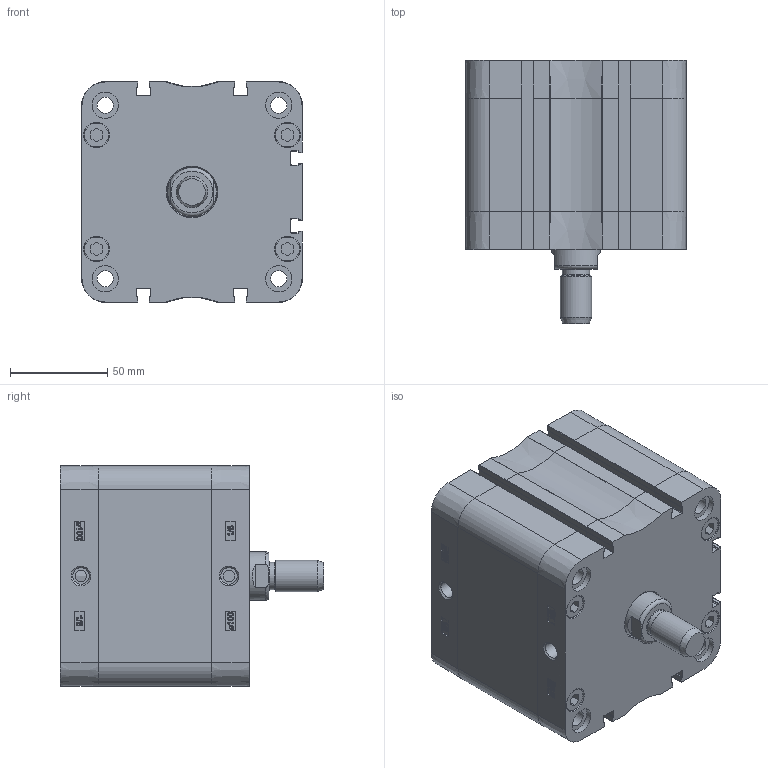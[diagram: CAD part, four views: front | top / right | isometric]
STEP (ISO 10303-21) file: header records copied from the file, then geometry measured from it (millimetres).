
FILE_DESCRIPTION((''),'2;1');
FILE_NAME('T:\Archivio Inventor\- CATALOGHI 2012\SERIE P - NUOVA\PDM\PDM100\PDM100.---.GS.M\PDM100.030.GS.M.stp','2013-02-05T11:42:21',('Administrator'),(''),'Autodesk Inventor 2012','Autodesk Inventor 2012','');
FILE_SCHEMA(('CONFIG_CONTROL_DESIGN'));
Length unit declared in the file: millimetre
Products named in the file (1): PDM100.030.GS.M
Bounding box: 113.3 x 135 x 113.3 mm (x, y, z)
Volume: 597260.7 mm3; surface area: 166895.9 mm2
Topology: 1 solids, 5 shells, 908 faces, 2136 edges, 1312 vertices
Faces by surface type: plane 371, bspline 226, cylinder 148, cone 81, torus 58, sphere 24
Full cylindrical faces by diameter (mm): 6 x2, 8.3 x4, 8.376 x8, 8.566 x2, 9.976 x4, 12 x1, 12.7 x8, 13.1 x8, 13.5 x8, 14 x1, 16 x1, 25 x1, 25.5 x1, 100 x1, 103.5 x1, 103.7 x1
Entity records: 29561 total; most frequent: CARTESIAN_POINT 9693, ORIENTED_EDGE 4030, DIRECTION 3400, EDGE_CURVE 2015, VERTEX_POINT 1291, AXIS2_PLACEMENT_3D 1208, EDGE_LOOP 1088, VECTOR 984
